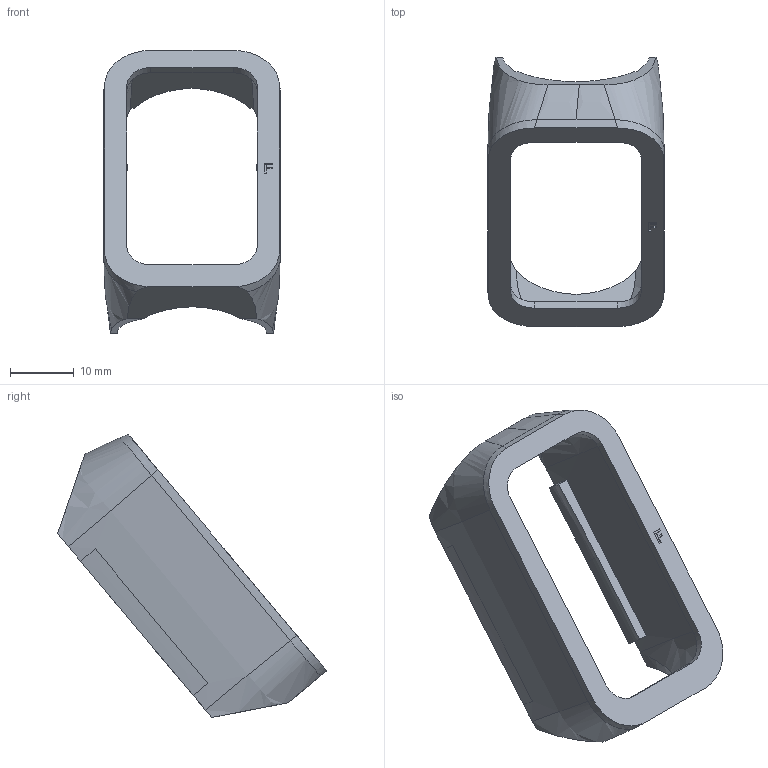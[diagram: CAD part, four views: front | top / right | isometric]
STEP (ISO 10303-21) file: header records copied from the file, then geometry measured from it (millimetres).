
FILE_DESCRIPTION(('Open CASCADE Model'),'2;1');
FILE_NAME('Open CASCADE Shape Model','1970-01-01T00:00:00',('Author'),( 'Open CASCADE'),'Open CASCADE STEP processor 7.8','Open CASCADE 7.8' ,'Unknown');
FILE_SCHEMA(('AUTOMOTIVE_DESIGN { 1 0 10303 214 1 1 1 1 }'));
Length unit declared in the file: millimetre
Products named in the file (2): Open CASCADE STEP translator 7.8 6; cover-retention-f
Assembly tree (1 placements, depth 2):
  Open CASCADE STEP translator 7.8 6
    cover-retention-f
Bounding box: 27.76 x 42.29 x 44.52 mm (x, y, z)
Volume: 3600.2 mm3; surface area: 5202.5 mm2
Topology: 1 solids, 1 shells, 70 faces, 201 edges, 134 vertices
Faces by surface type: bspline 45, plane 21, cylinder 4
Entity records: 9979 total; most frequent: CARTESIAN_POINT 7009, B_SPLINE_CURVE_WITH_KNOTS 426, ORIENTED_EDGE 402, PCURVE 402, DEFINITIONAL_REPRESENTATION 402, DIRECTION 201, EDGE_CURVE 201, SURFACE_CURVE 201
